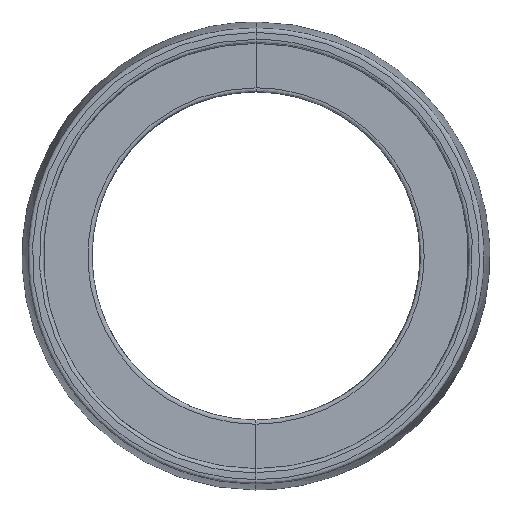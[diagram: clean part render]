
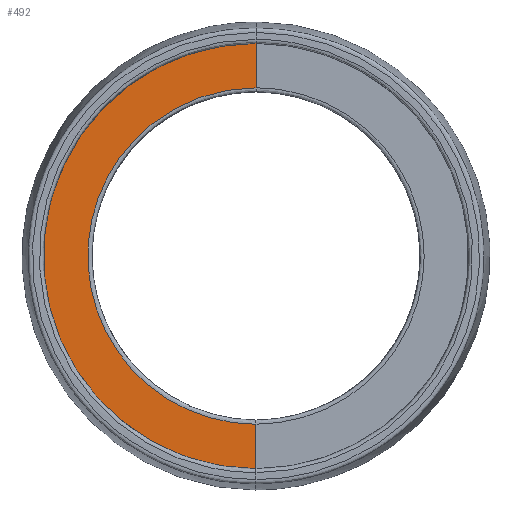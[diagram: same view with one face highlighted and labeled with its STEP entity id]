
A CAD part, front view. The second image highlights one B-rep face of the part: STEP entity #492.
In plain terms, the highlighted free-form (B-spline) face has degree [1, 5] with [2, 21] control points.
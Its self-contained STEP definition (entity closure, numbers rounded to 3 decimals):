
#66=ORIENTED_EDGE('trim curve',*,*,#249,.F.);
#67=ORIENTED_EDGE('trim curve',*,*,#246,.T.);
#68=ORIENTED_EDGE('trim curve',*,*,#239,.T.);
#69=ORIENTED_EDGE('trim curve',*,*,#248,.T.);
#186=VERTEX_POINT('Trimming Point',#2333);
#187=VERTEX_POINT('Trimming Point',#2335);
#190=VERTEX_POINT('Trimming Point',#3572);
#191=VERTEX_POINT('Trimming Point',#3574);
#239=EDGE_CURVE('Edge Curve',#186,#187,#315,.T.);
#246=EDGE_CURVE('Edge Curve',#190,#186,#322,.T.);
#248=EDGE_CURVE('Edge Curve',#187,#191,#324,.T.);
#249=EDGE_CURVE('Edge Curve',#190,#191,#325,.T.);
#315=(
BOUNDED_CURVE()
B_SPLINE_CURVE(5,(#2390,#2391,#2392,#2393,#2394,#2395,#2396,#2397,#2398,
#2399,#2400),.UNSPECIFIED.,.U.,.U.)
B_SPLINE_CURVE_WITH_KNOTS((6,5,6),(0.,1.571,3.142),
 .UNSPECIFIED.)
CURVE()
GEOMETRIC_REPRESENTATION_ITEM()
RATIONAL_B_SPLINE_CURVE((1.,0.883,0.824,0.824,
0.883,1.,0.883,0.824,0.824,
0.883,1.))
REPRESENTATION_ITEM('node')
);
#322=(
BOUNDED_CURVE()
B_SPLINE_CURVE(1,(#3572,#3573),.UNSPECIFIED.,.U.,.U.)
B_SPLINE_CURVE_WITH_KNOTS((2,2),(0.,0.915),.UNSPECIFIED.)
CURVE()
GEOMETRIC_REPRESENTATION_ITEM()
RATIONAL_B_SPLINE_CURVE((1.,1.))
REPRESENTATION_ITEM('node')
);
#324=(
BOUNDED_CURVE()
B_SPLINE_CURVE(1,(#3605,#3606),.UNSPECIFIED.,.U.,.U.)
B_SPLINE_CURVE_WITH_KNOTS((2,2),(0.,0.915),.UNSPECIFIED.)
CURVE()
GEOMETRIC_REPRESENTATION_ITEM()
RATIONAL_B_SPLINE_CURVE((1.,1.))
REPRESENTATION_ITEM('node')
);
#325=(
BOUNDED_CURVE()
B_SPLINE_CURVE(3,(#3649,#3650,#3651,#3652,#3653,#3654,#3655,#3656,#3657,
#3658,#3659,#3660,#3661,#3662,#3663,#3664,#3665,#3666,#3667,#3668,#3669,
#3670,#3671,#3672,#3673),.UNSPECIFIED.,.U.,.U.)
B_SPLINE_CURVE_WITH_KNOTS((4,3,3,3,3,3,3,3,4),(0.,0.431,0.655,
0.809,1.319,1.434,1.974,2.013,
2.637),.UNSPECIFIED.)
CURVE()
GEOMETRIC_REPRESENTATION_ITEM()
RATIONAL_B_SPLINE_CURVE((1.,0.979,0.979,1.,0.993,
0.993,1.,0.997,0.997,1.,0.97,
0.97,1.,0.999,0.999,1.,0.965,
0.965,1.,1.,1.,1.,0.955,
0.955,1.))
REPRESENTATION_ITEM('node')
);
#378=EDGE_LOOP('trim boundary',(#66,#67,#68,#69));
#416=FACE_OUTER_BOUND('Boundary Edges',#378,.T.);
#454=(
BOUNDED_SURFACE()
B_SPLINE_SURFACE(1,5,((#3607,#3608,#3609,#3610,#3611,#3612,#3613,#3614,#3615,
#3616,#3617,#3618,#3619,#3620,#3621,#3622,#3623,#3624,#3625,#3626,#3627),
(#3628,#3629,#3630,#3631,#3632,#3633,#3634,#3635,#3636,#3637,#3638,#3639,
#3640,#3641,#3642,#3643,#3644,#3645,#3646,#3647,#3648)),.UNSPECIFIED.,.U.,
 .U.,.U.)
B_SPLINE_SURFACE_WITH_KNOTS((2,2),(6,5,5,5,6),(0.,1.),(0.,1.571,
3.142,4.712,6.283),.UNSPECIFIED.)
GEOMETRIC_REPRESENTATION_ITEM()
RATIONAL_B_SPLINE_SURFACE(((1.,0.883,0.824,0.824,
0.883,1.,0.883,0.824,0.824,
0.883,1.,0.883,0.824,0.824,
0.883,1.,0.883,0.824,0.824,
0.883,1.),(1.,0.883,0.824,0.824,
0.883,1.,0.883,0.824,0.824,
0.883,1.,0.883,0.824,0.824,
0.883,1.,0.883,0.824,0.824,
0.883,1.)))
REPRESENTATION_ITEM('trim region')
SURFACE()
);
#492=ADVANCED_FACE('trim region',(#416),#454,.T.);
#2333=CARTESIAN_POINT('CVs',(0.,-2.823,10.93));
#2335=CARTESIAN_POINT('CVs',(0.,-2.823,-10.93));
#2390=CARTESIAN_POINT('CVs',(0.,-2.823,10.93));
#2391=CARTESIAN_POINT('CVs',(-3.502,-2.823,10.93));
#2392=CARTESIAN_POINT('CVs',(-6.952,-2.823,9.604));
#2393=CARTESIAN_POINT('CVs',(-9.604,-2.823,6.952));
#2394=CARTESIAN_POINT('CVs',(-10.93,-2.823,3.502));
#2395=CARTESIAN_POINT('CVs',(-10.93,-2.823,0.));
#2396=CARTESIAN_POINT('CVs',(-10.93,-2.823,-3.502));
#2397=CARTESIAN_POINT('CVs',(-9.604,-2.823,-6.952));
#2398=CARTESIAN_POINT('CVs',(-6.952,-2.823,-9.604));
#2399=CARTESIAN_POINT('CVs',(-3.502,-2.823,-10.93));
#2400=CARTESIAN_POINT('CVs',(0.,-2.823,-10.93));
#3572=CARTESIAN_POINT('CVs',(0.,-2.823,8.642));
#3573=CARTESIAN_POINT('CVs',(0.,-2.823,10.93));
#3574=CARTESIAN_POINT('CVs',(0.,-2.823,-8.642));
#3605=CARTESIAN_POINT('CVs',(0.,-2.823,-10.93));
#3606=CARTESIAN_POINT('CVs',(0.,-2.823,-8.642));
#3607=CARTESIAN_POINT('CVs',(0.,-2.823,10.93));
#3608=CARTESIAN_POINT('CVs',(3.502,-2.823,10.93));
#3609=CARTESIAN_POINT('CVs',(6.952,-2.823,9.604));
#3610=CARTESIAN_POINT('CVs',(9.604,-2.823,6.952));
#3611=CARTESIAN_POINT('CVs',(10.93,-2.823,3.502));
#3612=CARTESIAN_POINT('CVs',(10.93,-2.823,0.));
#3613=CARTESIAN_POINT('CVs',(10.93,-2.823,-3.502));
#3614=CARTESIAN_POINT('CVs',(9.604,-2.823,-6.952));
#3615=CARTESIAN_POINT('CVs',(6.952,-2.823,-9.604));
#3616=CARTESIAN_POINT('CVs',(3.502,-2.823,-10.93));
#3617=CARTESIAN_POINT('CVs',(0.,-2.823,-10.93));
#3618=CARTESIAN_POINT('CVs',(-3.502,-2.823,-10.93));
#3619=CARTESIAN_POINT('CVs',(-6.952,-2.823,-9.604));
#3620=CARTESIAN_POINT('CVs',(-9.604,-2.823,-6.952));
#3621=CARTESIAN_POINT('CVs',(-10.93,-2.823,-3.502));
#3622=CARTESIAN_POINT('CVs',(-10.93,-2.823,0.));
#3623=CARTESIAN_POINT('CVs',(-10.93,-2.823,3.502));
#3624=CARTESIAN_POINT('CVs',(-9.604,-2.823,6.952));
#3625=CARTESIAN_POINT('CVs',(-6.952,-2.823,9.604));
#3626=CARTESIAN_POINT('CVs',(-3.502,-2.823,10.93));
#3627=CARTESIAN_POINT('CVs',(0.,-2.823,10.93));
#3628=CARTESIAN_POINT('CVs',(0.,-2.823,8.43));
#3629=CARTESIAN_POINT('CVs',(2.701,-2.823,8.43));
#3630=CARTESIAN_POINT('CVs',(5.362,-2.823,7.407));
#3631=CARTESIAN_POINT('CVs',(7.407,-2.823,5.362));
#3632=CARTESIAN_POINT('CVs',(8.43,-2.823,2.701));
#3633=CARTESIAN_POINT('CVs',(8.43,-2.823,0.));
#3634=CARTESIAN_POINT('CVs',(8.43,-2.823,-2.701));
#3635=CARTESIAN_POINT('CVs',(7.407,-2.823,-5.362));
#3636=CARTESIAN_POINT('CVs',(5.362,-2.823,-7.407));
#3637=CARTESIAN_POINT('CVs',(2.701,-2.823,-8.43));
#3638=CARTESIAN_POINT('CVs',(0.,-2.823,-8.43));
#3639=CARTESIAN_POINT('CVs',(-2.701,-2.823,-8.43));
#3640=CARTESIAN_POINT('CVs',(-5.362,-2.823,-7.407));
#3641=CARTESIAN_POINT('CVs',(-7.407,-2.823,-5.362));
#3642=CARTESIAN_POINT('CVs',(-8.43,-2.823,-2.701));
#3643=CARTESIAN_POINT('CVs',(-8.43,-2.823,0.));
#3644=CARTESIAN_POINT('CVs',(-8.43,-2.823,2.701));
#3645=CARTESIAN_POINT('CVs',(-7.407,-2.823,5.362));
#3646=CARTESIAN_POINT('CVs',(-5.362,-2.823,7.407));
#3647=CARTESIAN_POINT('CVs',(-2.701,-2.823,8.43));
#3648=CARTESIAN_POINT('CVs',(0.,-2.823,8.43));
#3649=CARTESIAN_POINT('CVs',(0.,-2.823,8.642));
#3650=CARTESIAN_POINT('CVs',(-1.46,-2.823,8.642));
#3651=CARTESIAN_POINT('CVs',(-2.874,-2.823,8.28));
#3652=CARTESIAN_POINT('CVs',(-4.154,-2.823,7.579));
#3653=CARTESIAN_POINT('CVs',(-4.861,-2.823,7.191));
#3654=CARTESIAN_POINT('CVs',(-5.508,-2.823,6.708));
#3655=CARTESIAN_POINT('CVs',(-6.081,-2.823,6.14));
#3656=CARTESIAN_POINT('CVs',(-6.478,-2.823,5.748));
#3657=CARTESIAN_POINT('CVs',(-6.834,-2.823,5.319));
#3658=CARTESIAN_POINT('CVs',(-7.147,-2.823,4.858));
#3659=CARTESIAN_POINT('CVs',(-8.129,-2.823,3.413));
#3660=CARTESIAN_POINT('CVs',(-8.642,-2.823,1.745));
#3661=CARTESIAN_POINT('CVs',(-8.643,-2.823,0.));
#3662=CARTESIAN_POINT('CVs',(-8.643,-2.823,-0.366));
#3663=CARTESIAN_POINT('CVs',(-8.619,-2.823,-0.732));
#3664=CARTESIAN_POINT('CVs',(-8.573,-2.823,-1.095));
#3665=CARTESIAN_POINT('CVs',(-8.33,-2.823,-2.997));
#3666=CARTESIAN_POINT('CVs',(-7.489,-2.823,-4.72));
#3667=CARTESIAN_POINT('CVs',(-6.14,-2.823,-6.082));
#3668=CARTESIAN_POINT('CVs',(-6.041,-2.823,-6.182));
#3669=CARTESIAN_POINT('CVs',(-5.939,-2.823,-6.28));
#3670=CARTESIAN_POINT('CVs',(-5.835,-2.823,-6.375));
#3671=CARTESIAN_POINT('CVs',(-4.223,-2.823,-7.851));
#3672=CARTESIAN_POINT('CVs',(-2.186,-2.823,-8.642));
#3673=CARTESIAN_POINT('CVs',(0.,-2.823,-8.642));
